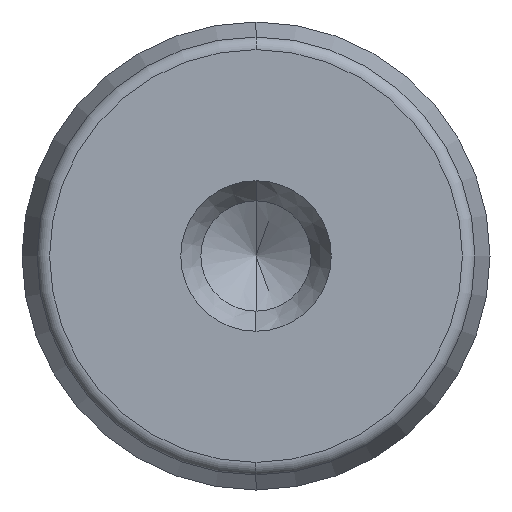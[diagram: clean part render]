
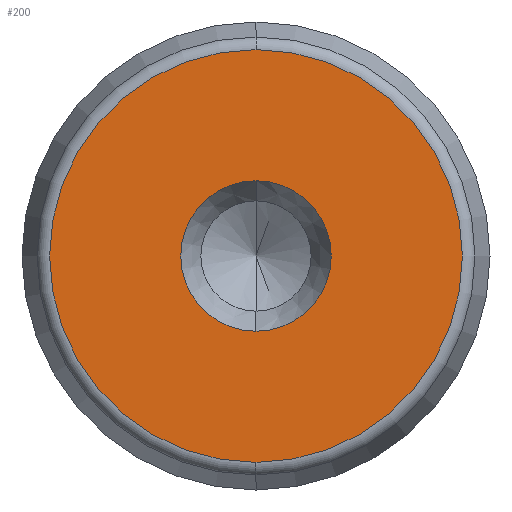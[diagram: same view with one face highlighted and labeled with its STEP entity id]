
A CAD part, left-side view. The second image highlights one B-rep face of the part: STEP entity #200.
In plain terms, the highlighted planar face has unit normal (-1, 0, 0).
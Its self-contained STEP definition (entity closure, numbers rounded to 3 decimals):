
#7 = AXIS2_PLACEMENT_3D ( 'NONE', #411, #787, #160 ) ;
#19 = CIRCLE ( 'NONE', #475, 6.174 ) ;
#22 = ORIENTED_EDGE ( 'NONE', *, *, #683, .T. ) ;
#25 = VERTEX_POINT ( 'NONE', #211 ) ;
#66 = ORIENTED_EDGE ( 'NONE', *, *, #704, .F. ) ;
#68 = VERTEX_POINT ( 'NONE', #464 ) ;
#101 = VERTEX_POINT ( 'NONE', #506 ) ;
#106 = DIRECTION ( 'NONE',  ( 0., 0., 1. ) ) ;
#122 = AXIS2_PLACEMENT_3D ( 'NONE', #733, #655, #155 ) ;
#155 = DIRECTION ( 'NONE',  ( 0., 0., 1. ) ) ;
#160 = DIRECTION ( 'NONE',  ( 0., 0., -1. ) ) ;
#189 = EDGE_CURVE ( 'NONE', #25, #101, #19, .T. ) ;
#190 = CIRCLE ( 'NONE', #122, 2.25 ) ;
#200 = ADVANCED_FACE ( 'NONE', ( #653, #730 ), #721, .F. ) ;
#204 = EDGE_LOOP ( 'NONE', ( #66, #220 ) ) ;
#211 = CARTESIAN_POINT ( 'NONE',  ( -4.5, 0., 6.174 ) ) ;
#220 = ORIENTED_EDGE ( 'NONE', *, *, #690, .F. ) ;
#226 = DIRECTION ( 'NONE',  ( 0., 0., 1. ) ) ;
#228 = DIRECTION ( 'NONE',  ( -1., 0., 0. ) ) ;
#231 = CIRCLE ( 'NONE', #268, 2.25 ) ;
#268 = AXIS2_PLACEMENT_3D ( 'NONE', #282, #228, #106 ) ;
#282 = CARTESIAN_POINT ( 'NONE',  ( -4.5, 0., 0. ) ) ;
#290 = CARTESIAN_POINT ( 'NONE',  ( -4.5, 0., 0. ) ) ;
#411 = CARTESIAN_POINT ( 'NONE',  ( -4.5, 0., 0. ) ) ;
#463 = CARTESIAN_POINT ( 'NONE',  ( -4.5, 0., 0. ) ) ;
#464 = CARTESIAN_POINT ( 'NONE',  ( -4.5, 0., 2.25 ) ) ;
#475 = AXIS2_PLACEMENT_3D ( 'NONE', #290, #530, #226 ) ;
#478 = VERTEX_POINT ( 'NONE', #703 ) ;
#506 = CARTESIAN_POINT ( 'NONE',  ( -4.5, 0., -6.174 ) ) ;
#529 = DIRECTION ( 'NONE',  ( 0., 0., 1. ) ) ;
#530 = DIRECTION ( 'NONE',  ( -1., 0., 0. ) ) ;
#532 = DIRECTION ( 'NONE',  ( -1., 0., 0. ) ) ;
#615 = AXIS2_PLACEMENT_3D ( 'NONE', #463, #532, #529 ) ;
#643 = CIRCLE ( 'NONE', #615, 6.174 ) ;
#653 = FACE_BOUND ( 'NONE', #204, .T. ) ;
#655 = DIRECTION ( 'NONE',  ( -1., 0., 0. ) ) ;
#683 = EDGE_CURVE ( 'NONE', #101, #25, #643, .T. ) ;
#690 = EDGE_CURVE ( 'NONE', #478, #68, #231, .T. ) ;
#703 = CARTESIAN_POINT ( 'NONE',  ( -4.5, 0., -2.25 ) ) ;
#704 = EDGE_CURVE ( 'NONE', #68, #478, #190, .T. ) ;
#721 = PLANE ( 'NONE',  #7 ) ;
#730 = FACE_OUTER_BOUND ( 'NONE', #788, .T. ) ;
#733 = CARTESIAN_POINT ( 'NONE',  ( -4.5, 0., 0. ) ) ;
#739 = ORIENTED_EDGE ( 'NONE', *, *, #189, .T. ) ;
#787 = DIRECTION ( 'NONE',  ( 1., 0., 0. ) ) ;
#788 = EDGE_LOOP ( 'NONE', ( #739, #22 ) ) ;
